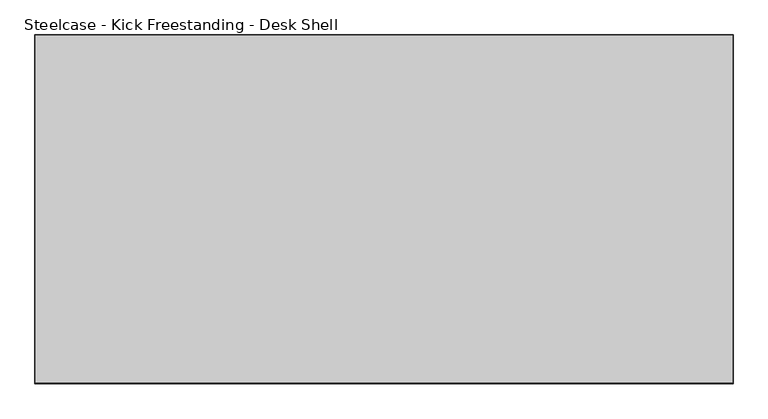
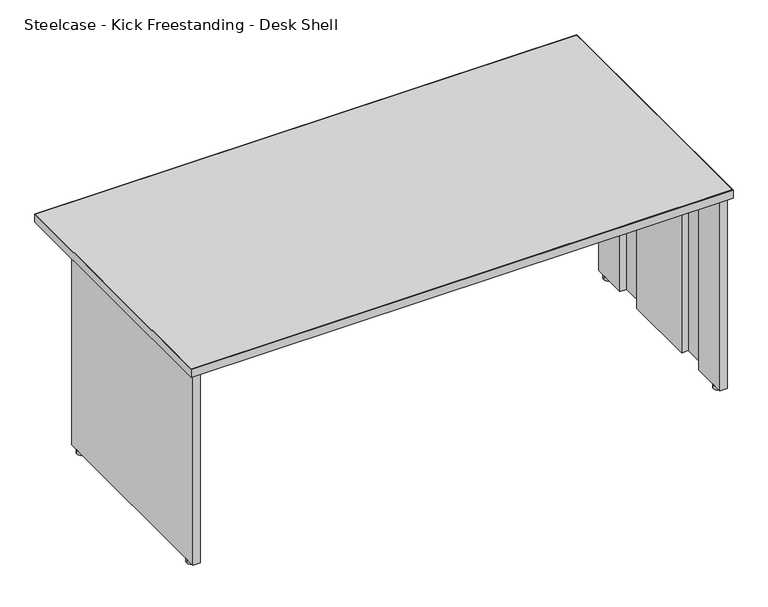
"""IFC4 building model written with IfcOpenShell, lengths in millimetres: furniture geometry, Steelcase - Kick Freestanding - Desk Shell : 36D x 72W."""

import ifcopenshell
import ifcopenshell.guid

model = None  # the IFC model being written
_history = None  # IfcOwnerHistory: only IFC2X3 demands one
_inside = {}  # id of a spatial element -> (the spatial element, [elements in it])
_under = {}  # id of a project, library or spatial element -> (it, [spatial elements below it])
_declared = {}  # id of a project -> (the project, [libraries it declares])
_typed = {}  # id of a type object -> (the type object, [elements of that type])
_made_of = {}  # id of a material, layer set ... -> (it, [elements and type objects made of it])


def new_model(schema):
    """Start an empty IFC model of exactly this schema.

    Asked for "IFC4X3", IfcOpenShell would pick the latest addendum, in which some entities
    have other attributes; the version numbers below select the first issue.
    IFC2X3 requires an IfcOwnerHistory on every rooted entity: one is made here for all.
    """
    global model, _history
    if schema == "IFC4X3":
        model = ifcopenshell.file(schema_version=(4, 3, 0, 0))
    else:
        model = ifcopenshell.file(schema=schema)
    _inside.clear()
    _under.clear()
    _declared.clear()
    _typed.clear()
    _made_of.clear()
    _history = None
    if model.schema == "IFC2X3":
        org = make("IfcOrganization", Name="unknown")
        user = make(
            "IfcPersonAndOrganization",
            ThePerson=make("IfcPerson", FamilyName="unknown"),
            TheOrganization=org,
        )
        app = make(
            "IfcApplication",
            ApplicationDeveloper=org,
            Version="unknown",
            ApplicationFullName="unknown",
            ApplicationIdentifier="unknown",
        )
        _history = make(
            "IfcOwnerHistory",
            OwningUser=user,
            OwningApplication=app,
            ChangeAction="ADDED",
            CreationDate=0,
        )
    return model


def make(cls, **values):
    """One entity of the class cls with the attributes given. An attribute that is None is left unset."""
    return model.create_entity(
        cls, **{name: value for name, value in values.items() if value is not None}
    )


def rooted(cls, **values):
    """An entity with a GlobalId (a new one), such as an element, a storey or a relation."""
    return make(cls, GlobalId=ifcopenshell.guid.new(), OwnerHistory=_history, **values)


def si_unit(unit_type, name, prefix=None):
    """IfcSIUnit, for example si_unit("LENGTHUNIT", "METRE", prefix="MILLI")."""
    return make("IfcSIUnit", UnitType=unit_type, Prefix=prefix, Name=name)


def assignment(units):
    """IfcUnitAssignment: the units of a project."""
    return None if units is None else make("IfcUnitAssignment", Units=units)


def point(xyz):
    """IfcCartesianPoint."""
    return None if xyz is None else make("IfcCartesianPoint", Coordinates=xyz)


def direction(xyz):
    """IfcDirection."""
    return None if xyz is None else make("IfcDirection", DirectionRatios=xyz)


def frame(location, z_axis=None, x_axis=None):
    """IfcAxis2Placement3D, a coordinate frame: its origin and axes. An axis left out is left unset."""
    return make(
        "IfcAxis2Placement3D",
        Location=point(location),
        Axis=direction(z_axis),
        RefDirection=direction(x_axis),
    )


def frame_2d(location, x_axis=None):
    """IfcAxis2Placement2D, a coordinate frame in the plane: its origin and x axis."""
    return make(
        "IfcAxis2Placement2D", Location=point(location), RefDirection=direction(x_axis)
    )


def origin():
    """The frame at (0, 0, 0) with its axes left unset."""
    return frame((0.0, 0.0, 0.0))


def origin_with_axes():
    """The frame at (0, 0, 0) with the z axis (0, 0, 1) and the x axis (1, 0, 0) written out."""
    return frame((0.0, 0.0, 0.0), z_axis=(0.0, 0.0, 1.0), x_axis=(1.0, 0.0, 0.0))


def place(relative_to, where):
    """IfcLocalPlacement: puts the frame where relative to a parent placement (None: the world)."""
    return make(
        "IfcLocalPlacement", PlacementRelTo=relative_to, RelativePlacement=where
    )


def context(
    kind, dimensions, precision=None, world=None, true_north=None, identifier=None
):
    """IfcGeometricRepresentationContext, for example the 3D "Model" context."""
    return make(
        "IfcGeometricRepresentationContext",
        ContextIdentifier=identifier,
        ContextType=kind,
        CoordinateSpaceDimension=dimensions,
        Precision=precision,
        WorldCoordinateSystem=world,
        TrueNorth=true_north,
    )


def project(units=None, contexts=None):
    """IfcProject with its units and contexts."""
    return rooted(
        "IfcProject",
        Name="project",
        RepresentationContexts=contexts,
        UnitsInContext=assignment(units),
    )


def spatial(cls, under=None, at=None, **own):
    """A site, building, storey or space (cls), placed at a placement, below another one or the project."""
    s = rooted(cls, ObjectPlacement=at, **own)
    if under is not None:
        _under.setdefault(under.id(), (under, []))[1].append(s)
    return s


def polyline(points):
    """IfcPolyline through the points."""
    return make("IfcPolyline", Points=[point(p) for p in points])


def circle_curve(where, radius):
    """IfcCircle in the frame where."""
    return make("IfcCircle", Position=where, Radius=radius)


def trimmed(basis, trim1, trim2, sense, master):
    """IfcTrimmedCurve: the piece of a basis curve between two trims."""
    return make(
        "IfcTrimmedCurve",
        BasisCurve=basis,
        Trim1=trim1,
        Trim2=trim2,
        SenseAgreement=sense,
        MasterRepresentation=master,
    )


def segment(curve, same_sense, transition):
    """IfcCompositeCurveSegment."""
    return make(
        "IfcCompositeCurveSegment",
        Transition=transition,
        SameSense=same_sense,
        ParentCurve=curve,
    )


def composite_curve(segments, self_intersect=None):
    """IfcCompositeCurve: segments joined end to end."""
    return make("IfcCompositeCurve", Segments=segments, SelfIntersect=self_intersect)


def outline(outer, holes=None, kind="AREA"):
    """IfcArbitraryClosedProfileDef: a profile drawn as a closed curve; with holes, ...WithVoids."""
    if holes is None:
        return make("IfcArbitraryClosedProfileDef", ProfileType=kind, OuterCurve=outer)
    return make(
        "IfcArbitraryProfileDefWithVoids",
        ProfileType=kind,
        OuterCurve=outer,
        InnerCurves=holes,
    )


def extrude(swept, where, along, depth):
    """IfcExtrudedAreaSolid: the profile swept, set in the frame where, extruded along a direction by depth."""
    return make(
        "IfcExtrudedAreaSolid",
        SweptArea=swept,
        Position=where,
        ExtrudedDirection=direction(along),
        Depth=depth,
    )


def shape(context_of_items, identifier, shape_type, items):
    """IfcShapeRepresentation: the items that make up one representation, for example the "Body"."""
    return make(
        "IfcShapeRepresentation",
        ContextOfItems=context_of_items,
        RepresentationIdentifier=identifier,
        RepresentationType=shape_type,
        Items=items,
    )


def source(mapping_origin, context_of_items, identifier, shape_type, items):
    """IfcRepresentationMap: a shape defined once, which mapped items show again and again."""
    return make(
        "IfcRepresentationMap",
        MappingOrigin=mapping_origin,
        MappedRepresentation=shape(context_of_items, identifier, shape_type, items),
    )


def transform(
    local_origin,
    x_axis=None,
    y_axis=None,
    z_axis=None,
    scale=None,
    scale2=None,
    scale3=None,
    uniform=True,
):
    """IfcCartesianTransformationOperator3D, or its non-uniform kind. x_axis, y_axis, z_axis: its Axis1, 2, 3."""
    if uniform:
        return make(
            "IfcCartesianTransformationOperator3D",
            Axis1=direction(x_axis),
            Axis2=direction(y_axis),
            LocalOrigin=point(local_origin),
            Scale=scale,
            Axis3=direction(z_axis),
        )
    return make(
        "IfcCartesianTransformationOperator3DnonUniform",
        Axis1=direction(x_axis),
        Axis2=direction(y_axis),
        LocalOrigin=point(local_origin),
        Scale=scale,
        Axis3=direction(z_axis),
        Scale2=scale2,
        Scale3=scale3,
    )


def mapped(mapping_source, mapping_target):
    """IfcMappedItem: shows the shape of a source again, moved by a transform."""
    return make(
        "IfcMappedItem", MappingSource=mapping_source, MappingTarget=mapping_target
    )


def made_of(thing, what):
    """Note that an element or type object is made of a material, layer set ...; save() writes the relation."""
    if what is not None:
        _made_of.setdefault(what.id(), (what, []))[1].append(thing)
    return thing


def element(
    cls,
    number,
    at=None,
    inside=None,
    cuts=None,
    type_object=None,
    material=None,
    context=None,
    identifier="Body",
    shape_type=None,
    held_by="IfcProductDefinitionShape",
    body=None,
    shapes=None,
    **own,
):
    """One element of the class cls, such as IfcWall. Its Tag is "e" and its number.

    at: its placement. inside: the storey or other place that contains it. cuts: it is an
    opening in that element (IfcRelVoidsElement). A single representation is given by context,
    identifier, shape_type and body (its items); several are given by shapes. held_by: the class
    of the entity that holds the representations. save() writes the other relations.
    """
    e = rooted(cls, Tag="e%d" % number, ObjectPlacement=at, **own)
    if body is not None:
        shapes = [shape(context, identifier, shape_type, body)]
    if shapes is not None:
        e.Representation = make(held_by, Representations=shapes)
    if inside is not None:
        _inside.setdefault(inside.id(), (inside, []))[1].append(e)
    if cuts is not None:
        rooted(
            "IfcRelVoidsElement", RelatingBuildingElement=cuts, RelatedOpeningElement=e
        )
    if type_object is not None:
        _typed.setdefault(type_object.id(), (type_object, []))[1].append(e)
    return made_of(e, material)


def aggregate(whole, parts):
    """IfcRelAggregates: a whole, such as a stair, and the parts it consists of."""
    return rooted("IfcRelAggregates", RelatingObject=whole, RelatedObjects=parts)


def save(model, path):
    """Write the relations noted so far, then the file.

    IfcRelAggregates (storeys below a building ...), IfcRelContainedInSpatialStructure (elements
    in a storey), IfcRelDefinesByType, IfcRelAssociatesMaterial and IfcRelDeclares: one each for
    every whole, place, type object, material and project.
    """
    for whole, parts in _under.values():
        aggregate(whole, parts)
    for where, things in _inside.values():
        rooted(
            "IfcRelContainedInSpatialStructure",
            RelatedElements=things,
            RelatingStructure=where,
        )
    for kind, things in _typed.values():
        rooted("IfcRelDefinesByType", RelatedObjects=things, RelatingType=kind)
    for what, things in _made_of.values():
        rooted("IfcRelAssociatesMaterial", RelatedObjects=things, RelatingMaterial=what)
    for by, libraries in _declared.values():
        rooted("IfcRelDeclares", RelatingContext=by, RelatedDefinitions=libraries)
    model.write(path)


def steelcase_kick_freestanding_desk_shell_b730fbc7(model_context):
    return source(origin(), model_context, "Body", "SweptSolid", [
        extrude(outline(composite_curve([segment(trimmed(circle_curve(frame_2d((665.1357759, -1156.6087877)), 13.97), [point((651.1657759, -1156.6087877))], [point((679.1057759, -1156.6087877))], False, "CARTESIAN"), True, "CONTINUOUS"), segment(trimmed(circle_curve(frame_2d((665.1357759, -1156.6087877)), 13.97), [point((679.1057759, -1156.6087877))], [point((651.1657759, -1156.6087877))], False, "CARTESIAN"), True, "CONTINUOUS")], self_intersect=False)), origin_with_axes(), (0.0, 0.0, 1.0), 12.446),
        extrude(outline(composite_curve([segment(trimmed(circle_curve(frame_2d((665.1357759, -1798.4441481)), 13.97), [point((651.1657759, -1798.4441481))], [point((679.1057759, -1798.4441481))], False, "CARTESIAN"), True, "CONTINUOUS"), segment(trimmed(circle_curve(frame_2d((665.1357759, -1798.4441481)), 13.97), [point((679.1057759, -1798.4441481))], [point((651.1657759, -1798.4441481))], False, "CARTESIAN"), True, "CONTINUOUS")], self_intersect=False)), origin_with_axes(), (0.0, 0.0, 1.0), 12.446),
        extrude(outline(polyline([(2431.4738425, -1248.4529604), (2431.4738425, -1125.1867604), (2455.9594421, -1125.1867604), (2455.9594421, -1833.338741), (2431.4738421, -1833.338741), (2431.4738421, -1709.0311348), (2453.9020425, -1709.0311348), (2453.9020425, -1609.3107682), (2431.4738421, -1609.3107682), (2431.4738421, -1348.1733647), (2453.9020425, -1348.1733647), (2453.9020425, -1248.4529604), (2431.4738425, -1248.4529604)])), frame((0.0, 0.0, 12.446), z_axis=(0.0, 0.0, 1.0), x_axis=(1.0, 0.0, 0.0)), (0.0, 0.0, 1.0), 682.498),
        extrude(outline(polyline([(677.0450425, -1248.4529604), (654.6168425, -1248.4529604), (654.6168425, -1348.1733647), (677.0450429, -1348.1733647), (677.0450429, -1609.3107682), (654.6168425, -1609.3107682), (654.6168425, -1709.0311348), (677.0450429, -1709.0311348), (677.0450429, -1833.338741), (652.5594429, -1833.338741), (652.5594429, -1125.1867604), (677.0450425, -1125.1867604), (677.0450425, -1248.4529604)])), frame((0.0, 0.0, 12.446), z_axis=(0.0, 0.0, 1.0), x_axis=(1.0, 0.0, 0.0)), (0.0, 0.0, 1.0), 682.498),
        extrude(outline(polyline([(2467.6688425, -932.6293604), (2467.6688425, -1843.0669215), (640.8500425, -1843.0669215), (640.8500425, -932.6293604), (2467.6688425, -932.6293604)])), frame((0.0, 0.0, 694.944), z_axis=(0.0, 0.0, 1.0), x_axis=(1.0, 0.0, 0.0)), (0.0, 0.0, 1.0), 28.956),
        extrude(outline(polyline([(2468.6594425, -931.6387604), (2468.6594425, -1846.0387604), (639.8594425, -1846.0387604), (639.8594425, -931.6387604), (2468.6594425, -931.6387604)]), holes=[polyline([(2467.6688425, -932.6293604), (640.8500425, -932.6293604), (640.8500425, -1843.0669215), (2467.6688425, -1843.0669215), (2467.6688425, -932.6293604)])]), frame((0.0, 0.0, 694.944), z_axis=(0.0, 0.0, 1.0), x_axis=(1.0, 0.0, 0.0)), (0.0, 0.0, 1.0), 28.956),
        extrude(outline(composite_curve([segment(trimmed(circle_curve(frame_2d((2443.3831091, -1798.4441481)), 13.97), [point((2429.4131091, -1798.4441481))], [point((2457.3531091, -1798.4441481))], False, "CARTESIAN"), True, "CONTINUOUS"), segment(trimmed(circle_curve(frame_2d((2443.3831091, -1798.4441481)), 13.97), [point((2457.3531091, -1798.4441481))], [point((2429.4131091, -1798.4441481))], False, "CARTESIAN"), True, "CONTINUOUS")], self_intersect=False)), origin_with_axes(), (0.0, 0.0, 1.0), 12.446),
        extrude(outline(composite_curve([segment(trimmed(circle_curve(frame_2d((2443.3831091, -1156.6087877)), 13.97), [point((2457.3531091, -1156.6087877))], [point((2429.4131091, -1156.6087877))], False, "CARTESIAN"), True, "CONTINUOUS"), segment(trimmed(circle_curve(frame_2d((2443.3831091, -1156.6087877)), 13.97), [point((2429.4131091, -1156.6087877))], [point((2457.3531091, -1156.6087877))], False, "CARTESIAN"), True, "CONTINUOUS")], self_intersect=False)), origin_with_axes(), (0.0, 0.0, 1.0), 12.446),
    ])


if __name__ == "__main__":
    model = new_model("IFC4")
    model_context = context("Model", 3, world=origin())
    ifc_project = project(units=[si_unit("LENGTHUNIT", "METRE", prefix="MILLI")], contexts=[model_context])
    site = spatial("IfcSite", under=ifc_project)
    building = spatial("IfcBuilding", under=site)
    placement = place(None, origin())
    steelcase_kick_freestanding_desk_shell_shape = steelcase_kick_freestanding_desk_shell_b730fbc7(model_context)
    element("IfcFurniture", 1, ObjectType="Steelcase - Kick Freestanding - Desk Shell : 36D x 72W", at=placement, inside=building, context=model_context, shape_type="MappedRepresentation", body=[
        mapped(steelcase_kick_freestanding_desk_shell_shape, transform((0.0, 0.0, 0.0), x_axis=(1.0, 0.0, 0.0), y_axis=(0.0, 1.0, 0.0), z_axis=(0.0, 0.0, 1.0))),
    ])
    save(model, "model.ifc")
